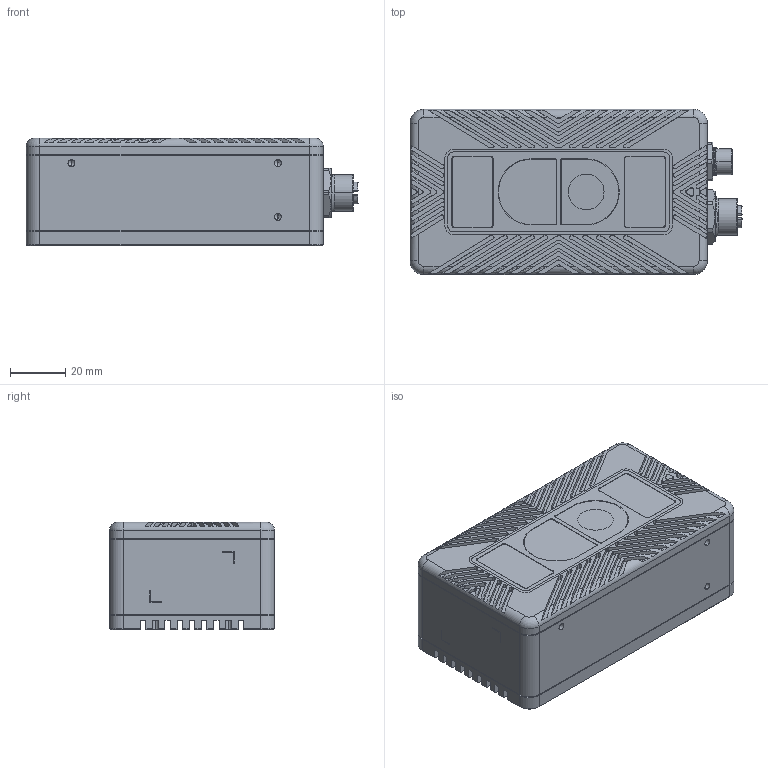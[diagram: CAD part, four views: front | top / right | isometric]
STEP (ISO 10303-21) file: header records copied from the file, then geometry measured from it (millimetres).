
FILE_DESCRIPTION (( 'STEP AP214' ), '1' );
FILE_NAME ('DM一体机装配体-带RGB-双杭插-20241218.STEP', '2024-12-18T09:40:20', ( '' ), ( '' ), 'SwSTEP 2.0', 'SolidWorks 2020', '' );
FILE_SCHEMA (( 'AUTOMOTIVE_DESIGN' ));
Length unit declared in the file: millimetre
Products named in the file (14): DM慾嫖ん敦諳え; M8-S8A-GWFM11; DMヶ褲; DM-絳嫖翐; DM一体机装配体-带RGB-双杭插-20241218; DMヶ裔郪璃; M12-S8X-GWFM16-ST; DM-密封圈; DM-RGB敦諳え; DM_Power_V1郪璃; DM笢褲_邧瑤脣M8+M12; DM后壳_一体散热; DM-TOF敦諳え; ABIR02112C-BP940-D+H1059
Assembly tree (15 placements, depth 3):
  DM一体机装配体-带RGB-双杭插-20241218
    DMヶ裔郪璃
      DMヶ褲
      DM慾嫖ん敦諳え  x2
      DM-RGB敦諳え
      DM-TOF敦諳え
      DM-絳嫖翐
    DM笢褲_邧瑤脣M8+M12
    DM后壳_一体散热
    DM_Power_V1郪璃
      ABIR02112C-BP940-D+H1059
    DM-密封圈  x2
    M8-S8A-GWFM11
    M12-S8X-GWFM16-ST
Bounding box: 120.6 x 60 x 39 mm (x, y, z)
Volume: 97564.3 mm3; surface area: 82638.1 mm2
Topology: 11 solids, 30 shells, 3188 faces, 8544 edges, 5494 vertices
Faces by surface type: plane 1231, cylinder 1067, bspline 444, cone 389, torus 57
Full cylindrical faces by diameter (mm): 8 x2, 12.1 x1
Entity records: 159730 total; most frequent: CARTESIAN_POINT 62932, ORIENTED_EDGE 16550, DIRECTION 13797, EDGE_CURVE 8292, VERTEX_POINT 5421, AXIS2_PLACEMENT_3D 4882, VECTOR 4033, LINE 4033
